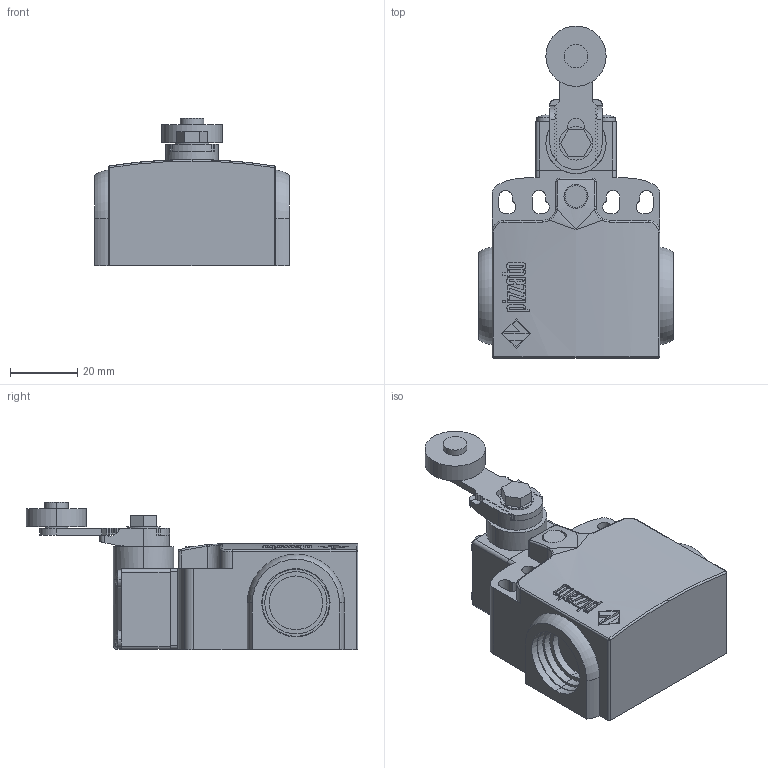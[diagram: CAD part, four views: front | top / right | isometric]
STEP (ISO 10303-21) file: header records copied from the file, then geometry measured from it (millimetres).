
FILE_DESCRIPTION (( 'STEP AP203' ), '1' );
FILE_NAME ('ZF_STEP_FX_x31.STEP', '2024-01-09T17:33:08', ( '' ), ( '' ), 'SwSTEP 2.0', 'SolidWorks 2020', '' );
FILE_SCHEMA (( 'CONFIG_CONTROL_DESIGN' ));
Length unit declared in the file: millimetre
Products named in the file (10): Pizzato_vite; Pizzato_Supporto_leve_6325; Pizzato_VN_A00KB_Default (R7); Pizzato_Custodia_FX_3dweb; ZF_STEP_VN_A00KB; Pizzato_rosetta_6606_Schiacciata; ZF_STEP_FX_x31; Pizzato_Supporto_TE38; ZF_STEP_VF_TE38
Assembly tree (9 placements, depth 3):
  ZF_STEP_FX_x31
    Pizzato_Custodia_FX_3dweb
      Pizzato_Custodia_FX_3dweb
    ZF_STEP_VF_TE38
      Pizzato_Supporto_TE38
    ZF_STEP_VN_A00KB
      Pizzato_Supporto_leve_6325
      Pizzato_VN_A00KB_Default (R7)
      Pizzato_rosetta_6606_Schiacciata
      Pizzato_vite
Bounding box: 58 x 99 x 44 mm (x, y, z)
Volume: 92870 mm3; surface area: 22820.6 mm2
Topology: 6 solids, 6 shells, 941 faces, 2606 edges, 1725 vertices
Faces by surface type: plane 528, cylinder 275, bspline 119, sphere 10, torus 9
Entity records: 35482 total; most frequent: CARTESIAN_POINT 10805, ORIENTED_EDGE 5204, DIRECTION 4542, EDGE_CURVE 2602, VERTEX_POINT 1725, VECTOR 1694, LINE 1694, AXIS2_PLACEMENT_3D 1424
